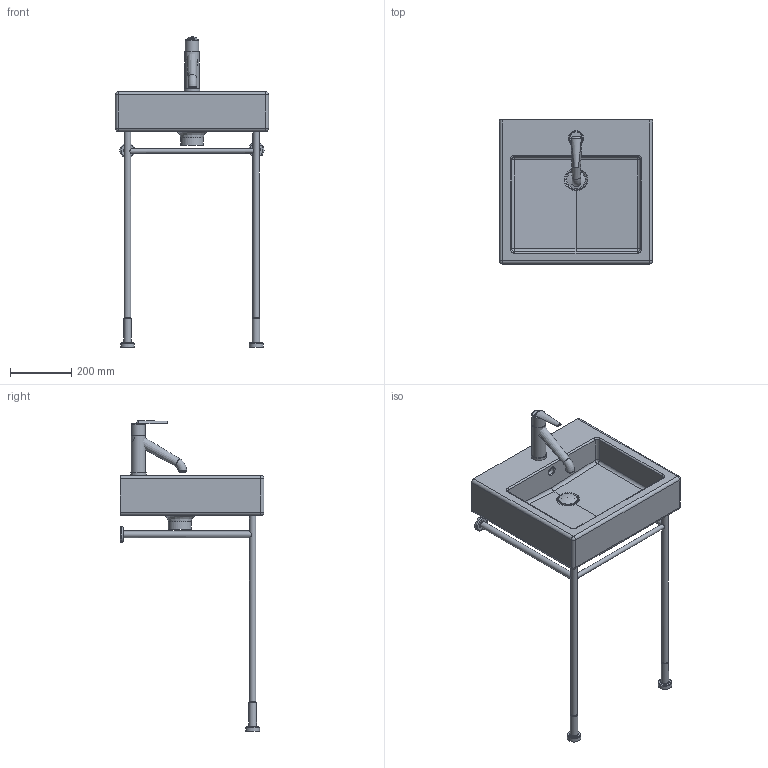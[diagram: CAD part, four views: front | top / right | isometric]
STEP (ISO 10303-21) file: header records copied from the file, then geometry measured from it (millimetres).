
FILE_DESCRIPTION((''),'2;1');
FILE_NAME('C:\Dokumente und Einstellungen\Huebner\Eigene Dateien\Koordinaten\045450_030651.stp','2008-11-20T18:06:52',('Huebner'),(''),'Autodesk Inventor 11','Autodesk Inventor 11','');
FILE_SCHEMA(('AUTOMOTIVE_DESIGN { 1 0 10303 214 1 1 1 1 }'));
Length unit declared in the file: millimetre
Products named in the file (10): 045450_030651; Gestel720x420_Ableitung_2; 045450; Kelch; Stopfen; Hebel150vorlage; hebel1; Hebel1_150neu; Neoperl; Griff
Assembly tree (9 placements, depth 3):
  045450_030651
    Gestel720x420_Ableitung_2
    045450
    Kelch
    Stopfen
    Hebel150vorlage
      hebel1
      Hebel1_150neu
      Neoperl
      Griff
Bounding box: 500 x 470 x 1014.28 mm (x, y, z)
Volume: 15168632.9 mm3; surface area: 1201337.4 mm2
Topology: 8 solids, 8 shells, 157 faces, 346 edges, 210 vertices
Faces by surface type: cylinder 58, plane 55, bspline 16, torus 15, cone 9, sphere 4
Full cylindrical faces by diameter (mm): 15 x1, 16 x1, 20 x3, 21 x4, 25 x3, 35 x2, 42 x1, 44 x1, 45 x3, 46 x1, 50 x3, 52 x1, 60 x1, 75 x1
Entity records: 6390 total; most frequent: CARTESIAN_POINT 2935, DIRECTION 718, ORIENTED_EDGE 568, AXIS2_PLACEMENT_3D 306, EDGE_CURVE 284, EDGE_LOOP 227, VERTEX_POINT 201, FACE_OUTER_BOUND 157
